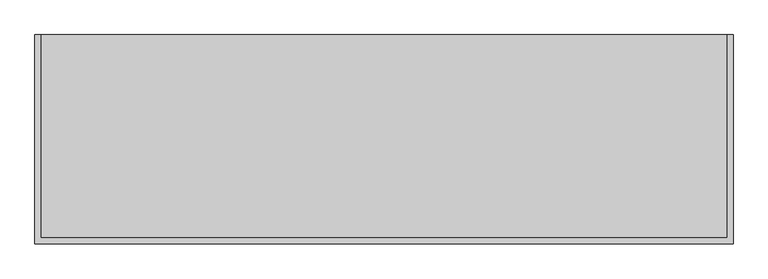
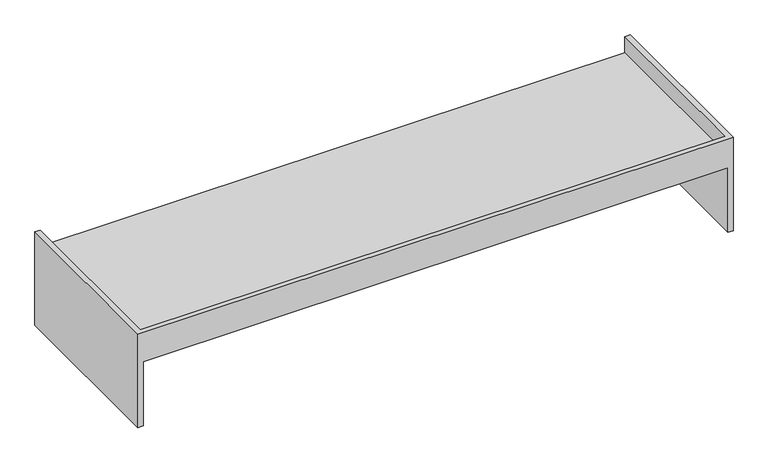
"""IFC4 building model written with IfcOpenShell, lengths in millimetres: furniture geometry, Mueble con faldon sin cajones - lavabo sobreponer : MB8-mueble baño colgado- 1.75cm."""

from ifc_helpers import new_model, si_unit, origin, place, context, project, spatial, faceted_brep, source, transform, mapped, element, save


def furniture_d9654537(model_context):
    return source(origin(), model_context, "Body", "Brep", [
        faceted_brep([(-750.0, 585.0, 800.0), (-735.0, 585.0, 800.0), (-735.0, 585.0, 750.0), (985.0, 585.0, 750.0), (985.0, 585.0, 800.0), (1000.0, 585.0, 800.0), (1000.0, 585.0, 510.0), (-750.0, 585.0, 510.0), (-750.0, 60.0, 800.0), (1000.0, 60.0, 800.0), (985.0, 75.0, 800.0), (-735.0, 75.0, 800.0), (-735.0, 75.0, 750.0), (-750.0, 60.0, 510.0), (985.0, 75.0, 750.0), (-735.0, 60.0, 510.0), (-735.0, 60.0, 710.0), (985.0, 60.0, 710.0), (985.0, 60.0, 510.0), (1000.0, 60.0, 510.0), (985.0, 570.0, 510.0), (-735.0, 570.0, 510.0), (-735.0, 570.0, 710.0), (985.0, 570.0, 710.0)], [[[0, 1, 2, 3, 4, 5, 6, 7]], [[1, 0, 8, 9, 5, 4, 10, 11]], [[2, 1, 11, 12]], [[0, 7, 13, 8]], [[11, 10, 14, 12]], [[9, 8, 13, 15, 16, 17, 18, 19]], [[10, 4, 3, 14]], [[6, 5, 9, 19]], [[15, 13, 7, 6, 19, 18, 20, 21]], [[16, 15, 21, 22]], [[21, 20, 23, 22]], [[20, 18, 17, 23]], [[3, 2, 12, 14]], [[17, 16, 22, 23]]]),
    ])


if __name__ == "__main__":
    model = new_model("IFC4")
    model_context = context("Model", 3, world=origin())
    ifc_project = project(units=[si_unit("LENGTHUNIT", "METRE", prefix="MILLI")], contexts=[model_context])
    site = spatial("IfcSite", under=ifc_project)
    building = spatial("IfcBuilding", under=site)
    placement = place(None, origin())
    furniture_shape = furniture_d9654537(model_context)
    element("IfcFurniture", 1, ObjectType="Mueble con faldon sin cajones - lavabo sobreponer : MB8-mueble baño colgado- 1.75cm", at=placement, inside=building, context=model_context, shape_type="MappedRepresentation", body=[
        mapped(furniture_shape, transform((0.0, 0.0, 0.0), x_axis=(1.0, 0.0, 0.0), y_axis=(0.0, 1.0, 0.0), z_axis=(0.0, 0.0, 1.0))),
    ])
    save(model, "model.ifc")
